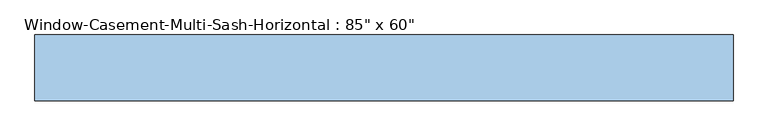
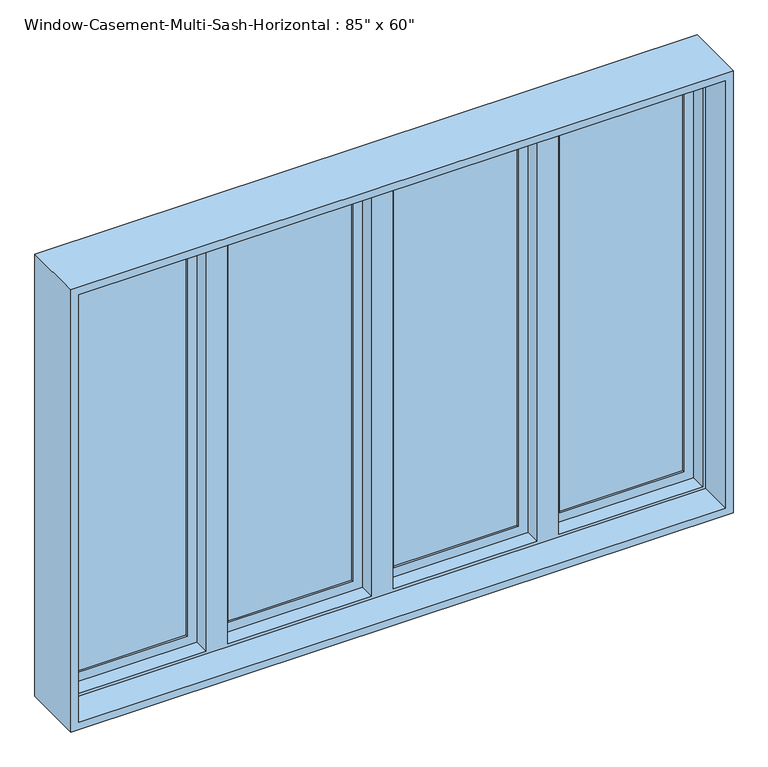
"""IFC4 building model written with IfcOpenShell, lengths in millimetres: window geometry."""

from ifc_helpers import new_model, si_unit, frame, origin, place, context, project, spatial, polyline, outline, extrude, faceted_brep, source, transform, mapped, element, save


def window_634df5ac(model_context):
    return source(origin(), model_context, "Body", "SolidModel", [
        extrude(outline(polyline([(2413.0, -514.35), (939.8, -514.35), (939.8, -25.4), (2413.0, -25.4), (2413.0, -514.35)]), holes=[polyline([(2371.1296875, -67.2703125), (981.6703125, -67.2703125), (981.6703125, -472.4796875), (2371.1296875, -472.4796875), (2371.1296875, -67.2703125)])]), frame((0.0, 60.325, 0.0), z_axis=(0.0, 1.0, 0.0), x_axis=(0.0, 0.0, 1.0)), (0.0, 0.0, 1.0), 31.75),
        extrude(outline(polyline([(2413.0, 25.4), (939.8, 25.4), (939.8, 514.35), (2413.0, 514.35), (2413.0, 25.4)]), holes=[polyline([(2371.1296875, 472.4796875), (981.6703125, 472.4796875), (981.6703125, 67.2703125), (2371.1296875, 67.2703125), (2371.1296875, 472.4796875)])]), frame((0.0, 60.325, 0.0), z_axis=(0.0, 1.0, 0.0), x_axis=(0.0, 0.0, 1.0)), (0.0, 0.0, 1.0), 31.75),
        faceted_brep([(-565.15, 60.325, 2413.0), (-1054.1, 60.325, 2413.0), (-1054.1, 101.6, 2413.0), (1054.1, 101.6, 2413.0), (1054.1, 60.325, 2413.0), (565.15, 60.325, 2413.0), (565.15, 98.425, 2413.0), (514.35, 98.425, 2413.0), (514.35, 60.325, 2413.0), (25.4, 60.325, 2413.0), (25.4, 98.425, 2413.0), (-25.4, 98.425, 2413.0), (-25.4, 60.325, 2413.0), (-514.35, 60.325, 2413.0), (-514.35, 98.425, 2413.0), (-565.15, 98.425, 2413.0), (-1043.9796875, 9.525, 2402.8796875), (-1043.9796875, 60.325, 2402.8796875), (-575.2703125, 60.325, 2402.8796875), (-575.2703125, 9.525, 2402.8796875), (1043.9796875, 60.325, 2402.8796875), (1043.9796875, 9.525, 2402.8796875), (575.2703125, 9.525, 2402.8796875), (575.2703125, 60.325, 2402.8796875), (-504.2296875, 60.325, 2402.8796875), (-35.5203125, 60.325, 2402.8796875), (-35.5203125, 9.525, 2402.8796875), (-504.2296875, 9.525, 2402.8796875), (35.5203125, 60.325, 2402.8796875), (504.2296875, 60.325, 2402.8796875), (504.2296875, 9.525, 2402.8796875), (35.5203125, 9.525, 2402.8796875), (-1054.1, -101.6, 2413.0), (-1054.1, 9.525, 2413.0), (1054.1, 9.525, 2413.0), (1054.1, -101.6, 2413.0), (-1079.5, 101.6, 2438.4), (-1079.5, -101.6, 2438.4), (1079.5, -101.6, 2438.4), (1079.5, 101.6, 2438.4), (1054.1, 101.6, 939.8), (1054.1, 60.325, 939.8), (1043.9796875, 60.325, 949.9203125), (1043.9796875, 9.525, 949.9203125), (1054.1, 9.525, 939.8), (1054.1, -101.6, 939.8), (1079.5, -101.6, 914.4), (1079.5, 101.6, 914.4), (565.15, 60.325, 939.8), (-1054.1, 101.6, 939.8), (-1054.1, 60.325, 939.8), (-565.15, 60.325, 939.8), (-565.15, 98.425, 939.8), (-514.35, 98.425, 939.8), (-514.35, 60.325, 939.8), (-25.4, 60.325, 939.8), (-25.4, 98.425, 939.8), (25.4, 98.425, 939.8), (25.4, 60.325, 939.8), (514.35, 60.325, 939.8), (514.35, 98.425, 939.8), (565.15, 98.425, 939.8), (575.2703125, 60.325, 949.9203125), (575.2703125, 9.525, 949.9203125), (-1043.9796875, 60.325, 949.9203125), (-1043.9796875, 9.525, 949.9203125), (-575.2703125, 9.525, 949.9203125), (-575.2703125, 60.325, 949.9203125), (-35.5203125, 60.325, 949.9203125), (-504.2296875, 60.325, 949.9203125), (-504.2296875, 9.525, 949.9203125), (-35.5203125, 9.525, 949.9203125), (504.2296875, 60.325, 949.9203125), (35.5203125, 60.325, 949.9203125), (35.5203125, 9.525, 949.9203125), (504.2296875, 9.525, 949.9203125), (-1054.1, 9.525, 939.8), (-1054.1, -101.6, 939.8), (-1079.5, -101.6, 914.4), (-1079.5, 101.6, 914.4)], [[[0, 1, 2, 3, 4, 5, 6, 7, 8, 9, 10, 11, 12, 13, 14, 15]], [[16, 17, 18, 19]], [[20, 21, 22, 23]], [[24, 25, 26, 27]], [[28, 29, 30, 31]], [[32, 33, 34, 35]], [[36, 37, 38, 39]], [[4, 3, 40, 41]], [[21, 20, 42, 43]], [[35, 34, 44, 45]], [[39, 38, 46, 47]], [[48, 41, 40, 49, 50, 51, 52, 53, 54, 55, 56, 57, 58, 59, 60, 61]], [[43, 42, 62, 63]], [[64, 65, 66, 67]], [[68, 69, 70, 71]], [[72, 73, 74, 75]], [[45, 44, 76, 77]], [[47, 46, 78, 79]], [[2, 1, 50, 49]], [[4, 41, 48, 5], [20, 23, 62, 42]], [[50, 1, 0, 51], [64, 67, 18, 17]], [[12, 55, 54, 13], [69, 68, 25, 24]], [[8, 59, 58, 9], [73, 72, 29, 28]], [[17, 16, 65, 64]], [[44, 34, 33, 76], [16, 19, 66, 65], [27, 26, 71, 70], [31, 30, 75, 74], [21, 43, 63, 22]], [[33, 32, 77, 76]], [[38, 37, 78, 46], [32, 35, 45, 77]], [[37, 36, 79, 78]], [[36, 39, 47, 79], [3, 2, 49, 40]], [[18, 67, 66, 19]], [[69, 24, 27, 70]], [[53, 14, 13, 54]], [[14, 53, 52, 15]], [[15, 52, 51, 0]], [[25, 68, 71, 26]], [[73, 28, 31, 74]], [[57, 10, 9, 58]], [[10, 57, 56, 11]], [[11, 56, 55, 12]], [[6, 61, 60, 7]], [[7, 60, 59, 8]], [[29, 72, 75, 30]], [[62, 23, 22, 63]], [[61, 6, 5, 48]]]),
        extrude(outline(polyline([(-67.2703125, 85.725), (-67.2703125, 79.375), (-472.4796875, 79.375), (-472.4796875, 85.725), (-67.2703125, 85.725)])), frame((0.0, 0.0, 981.6703125), z_axis=(0.0, 0.0, 1.0), x_axis=(1.0, 0.0, 0.0)), (0.0, 0.0, 1.0), 1389.459375),
        extrude(outline(polyline([(-67.2703125, 73.025), (-67.2703125, 66.675), (-472.4796875, 66.675), (-472.4796875, 73.025), (-67.2703125, 73.025)])), frame((0.0, 0.0, 981.6703125), z_axis=(0.0, 0.0, 1.0), x_axis=(1.0, 0.0, 0.0)), (0.0, 0.0, 1.0), 1389.459375),
        extrude(outline(polyline([(472.4796875, 85.725), (472.4796875, 79.375), (67.2703125, 79.375), (67.2703125, 85.725), (472.4796875, 85.725)])), frame((0.0, 0.0, 981.6703125), z_axis=(0.0, 0.0, 1.0), x_axis=(1.0, 0.0, 0.0)), (0.0, 0.0, 1.0), 1389.459375),
        extrude(outline(polyline([(472.4796875, 73.025), (472.4796875, 66.675), (67.2703125, 66.675), (67.2703125, 73.025), (472.4796875, 73.025)])), frame((0.0, 0.0, 981.6703125), z_axis=(0.0, 0.0, 1.0), x_axis=(1.0, 0.0, 0.0)), (0.0, 0.0, 1.0), 1389.459375),
        extrude(outline(polyline([(-607.0203125, 85.725), (-607.0203125, 79.375), (-1012.2296875, 79.375), (-1012.2296875, 85.725), (-607.0203125, 85.725)])), frame((0.0, 0.0, 981.6703125), z_axis=(0.0, 0.0, 1.0), x_axis=(1.0, 0.0, 0.0)), (0.0, 0.0, 1.0), 1389.459375),
        extrude(outline(polyline([(-607.0203125, 73.025), (-607.0203125, 66.675), (-1012.2296875, 66.675), (-1012.2296875, 73.025), (-607.0203125, 73.025)])), frame((0.0, 0.0, 981.6703125), z_axis=(0.0, 0.0, 1.0), x_axis=(1.0, 0.0, 0.0)), (0.0, 0.0, 1.0), 1389.459375),
        extrude(outline(polyline([(1012.2296875, 85.725), (1012.2296875, 79.375), (607.0203125, 79.375), (607.0203125, 85.725), (1012.2296875, 85.725)])), frame((0.0, 0.0, 981.6703125), z_axis=(0.0, 0.0, 1.0), x_axis=(1.0, 0.0, 0.0)), (0.0, 0.0, 1.0), 1389.459375),
        extrude(outline(polyline([(1012.2296875, 73.025), (1012.2296875, 66.675), (607.0203125, 66.675), (607.0203125, 73.025), (1012.2296875, 73.025)])), frame((0.0, 0.0, 981.6703125), z_axis=(0.0, 0.0, 1.0), x_axis=(1.0, 0.0, 0.0)), (0.0, 0.0, 1.0), 1389.459375),
        extrude(outline(polyline([(2413.0, -1054.1), (939.8, -1054.1), (939.8, -565.15), (2413.0, -565.15), (2413.0, -1054.1)]), holes=[polyline([(2371.1296875, -607.0203125), (981.6703125, -607.0203125), (981.6703125, -1012.2296875), (2371.1296875, -1012.2296875), (2371.1296875, -607.0203125)])]), frame((0.0, 60.325, 0.0), z_axis=(0.0, 1.0, 0.0), x_axis=(0.0, 0.0, 1.0)), (0.0, 0.0, 1.0), 31.75),
        extrude(outline(polyline([(2413.0, 565.15), (939.8, 565.15), (939.8, 1054.1), (2413.0, 1054.1), (2413.0, 565.15)]), holes=[polyline([(2371.1296875, 1012.2296875), (981.6703125, 1012.2296875), (981.6703125, 607.0203125), (2371.1296875, 607.0203125), (2371.1296875, 1012.2296875)])]), frame((0.0, 60.325, 0.0), z_axis=(0.0, 1.0, 0.0), x_axis=(0.0, 0.0, 1.0)), (0.0, 0.0, 1.0), 31.75),
    ])


if __name__ == "__main__":
    model = new_model("IFC4")
    model_context = context("Model", 3, world=origin())
    ifc_project = project(units=[si_unit("LENGTHUNIT", "METRE", prefix="MILLI")], contexts=[model_context])
    site = spatial("IfcSite", under=ifc_project)
    building = spatial("IfcBuilding", under=site)
    placement = place(None, origin())
    window_shape = window_634df5ac(model_context)
    element("IfcWindow", 1, ObjectType="Window-Casement-Multi-Sash-Horizontal : 85\" x 60\"", at=placement, inside=building, context=model_context, shape_type="MappedRepresentation", body=[
        mapped(window_shape, transform((0.0, 0.0, 0.0), x_axis=(1.0, 0.0, 0.0), y_axis=(0.0, 1.0, 0.0), z_axis=(0.0, 0.0, 1.0))),
    ])
    save(model, "model.ifc")
